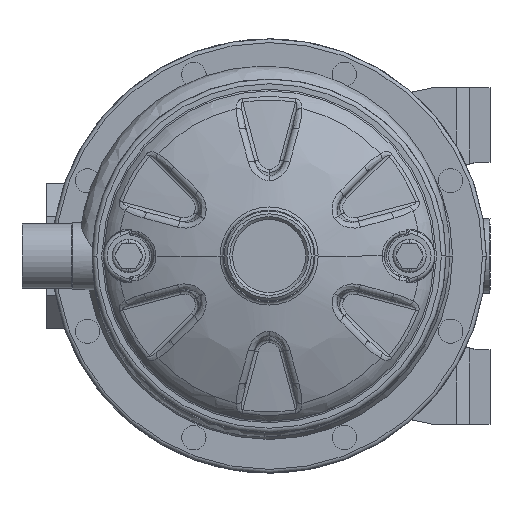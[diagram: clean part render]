
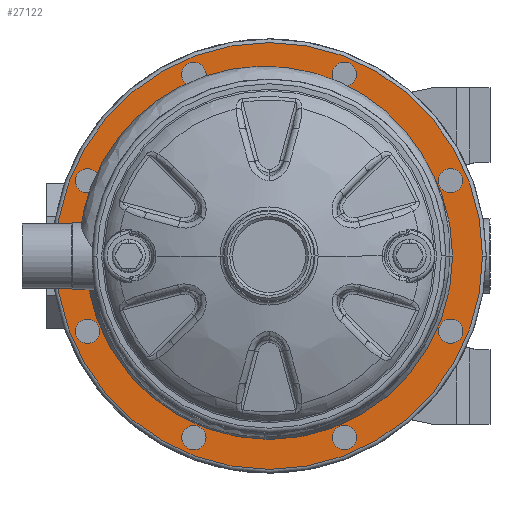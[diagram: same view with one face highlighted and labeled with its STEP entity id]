
A CAD part, left-side view. The second image highlights one B-rep face of the part: STEP entity #27122.
In plain terms, the highlighted planar face has unit normal (-1, 0, 0).
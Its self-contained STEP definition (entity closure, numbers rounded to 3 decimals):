
#19614=CARTESIAN_POINT('',(33.,0.,
0.));
#19615=DIRECTION('',(1.,0.,0.));
#19616=DIRECTION('',(0.,-1.,0.));
#19617=AXIS2_PLACEMENT_3D('',#19614,#19615,#19616);
#19622=CARTESIAN_POINT('',(33.,0.,
0.));
#19623=DIRECTION('',(1.,0.,0.));
#19624=DIRECTION('',(0.,1.,0.));
#19625=AXIS2_PLACEMENT_3D('',#19622,#19623,#19624);
#19630=CARTESIAN_POINT('',(33.,0.,0.));
#19631=DIRECTION('',(-1.,0.,0.));
#19632=DIRECTION('',(0.,1.,0.));
#19633=AXIS2_PLACEMENT_3D('',#19630,#19631,#19632);
#19638=CARTESIAN_POINT('',(33.,0.,0.));
#19639=DIRECTION('',(-1.,0.,0.));
#19640=DIRECTION('',(0.,-1.,0.));
#19641=AXIS2_PLACEMENT_3D('',#19638,#19639,#19640);
#19646=CARTESIAN_POINT('',(33.,97.007,40.182));
#19647=DIRECTION('',(-1.,0.,0.));
#19648=DIRECTION('',(0.,0.,1.));
#19649=AXIS2_PLACEMENT_3D('',#19646,#19647,#19648);
#19654=CARTESIAN_POINT('',(33.,97.007,40.182));
#19655=DIRECTION('',(-1.,0.,0.));
#19656=DIRECTION('',(0.,0.,-1.));
#19657=AXIS2_PLACEMENT_3D('',#19654,#19655,#19656);
#19662=CARTESIAN_POINT('',(33.,40.182,97.007));
#19663=DIRECTION('',(-1.,0.,0.));
#19664=DIRECTION('',(0.,-0.707,0.707));
#19665=AXIS2_PLACEMENT_3D('',#19662,#19663,#19664);
#19670=CARTESIAN_POINT('',(33.,40.182,97.007));
#19671=DIRECTION('',(-1.,0.,0.));
#19672=DIRECTION('',(0.,0.707,-0.707));
#19673=AXIS2_PLACEMENT_3D('',#19670,#19671,#19672);
#19678=CARTESIAN_POINT('',(33.,-40.182,97.007));
#19679=DIRECTION('',(-1.,0.,0.));
#19680=DIRECTION('',(0.,-1.,0.));
#19681=AXIS2_PLACEMENT_3D('',#19678,#19679,#19680);
#19686=CARTESIAN_POINT('',(33.,-40.182,97.007));
#19687=DIRECTION('',(-1.,0.,0.));
#19688=DIRECTION('',(0.,1.,0.));
#19689=AXIS2_PLACEMENT_3D('',#19686,#19687,#19688);
#19694=CARTESIAN_POINT('',(33.,-97.007,40.182));
#19695=DIRECTION('',(-1.,0.,0.));
#19696=DIRECTION('',(0.,-0.707,-0.707));
#19697=AXIS2_PLACEMENT_3D('',#19694,#19695,#19696);
#19702=CARTESIAN_POINT('',(33.,-97.007,40.182));
#19703=DIRECTION('',(-1.,0.,0.));
#19704=DIRECTION('',(0.,0.707,0.707));
#19705=AXIS2_PLACEMENT_3D('',#19702,#19703,#19704);
#19710=CARTESIAN_POINT('',(33.,-97.007,-40.182));
#19711=DIRECTION('',(-1.,0.,0.));
#19712=DIRECTION('',(0.,0.,-1.));
#19713=AXIS2_PLACEMENT_3D('',#19710,#19711,#19712);
#19718=CARTESIAN_POINT('',(33.,-97.007,-40.182));
#19719=DIRECTION('',(-1.,0.,0.));
#19720=DIRECTION('',(0.,0.,1.));
#19721=AXIS2_PLACEMENT_3D('',#19718,#19719,#19720);
#19726=CARTESIAN_POINT('',(33.,-40.182,-97.007));
#19727=DIRECTION('',(-1.,0.,0.));
#19728=DIRECTION('',(0.,0.707,-0.707));
#19729=AXIS2_PLACEMENT_3D('',#19726,#19727,#19728);
#19734=CARTESIAN_POINT('',(33.,-40.182,-97.007));
#19735=DIRECTION('',(-1.,0.,0.));
#19736=DIRECTION('',(0.,-0.707,0.707));
#19737=AXIS2_PLACEMENT_3D('',#19734,#19735,#19736);
#19742=CARTESIAN_POINT('',(33.,40.182,-97.007));
#19743=DIRECTION('',(-1.,0.,0.));
#19744=DIRECTION('',(0.,1.,0.));
#19745=AXIS2_PLACEMENT_3D('',#19742,#19743,#19744);
#19750=CARTESIAN_POINT('',(33.,40.182,-97.007));
#19751=DIRECTION('',(-1.,0.,0.));
#19752=DIRECTION('',(0.,-1.,0.));
#19753=AXIS2_PLACEMENT_3D('',#19750,#19751,#19752);
#19758=CARTESIAN_POINT('',(33.,97.007,-40.182));
#19759=DIRECTION('',(-1.,0.,0.));
#19760=DIRECTION('',(0.,0.707,0.707));
#19761=AXIS2_PLACEMENT_3D('',#19758,#19759,#19760);
#19766=CARTESIAN_POINT('',(33.,97.007,-40.182));
#19767=DIRECTION('',(-1.,0.,0.));
#19768=DIRECTION('',(0.,-0.707,-0.707));
#19769=AXIS2_PLACEMENT_3D('',#19766,#19767,#19768);
#26437=CARTESIAN_POINT('',(33.,-98.,
0.));
#26438=CARTESIAN_POINT('',(33.,98.,
0.));
#26439=VERTEX_POINT('',#26437);
#26440=VERTEX_POINT('',#26438);
#26441=CARTESIAN_POINT('',(33.,114.,0.));
#26442=CARTESIAN_POINT('',(33.,-114.,0.));
#26443=VERTEX_POINT('',#26441);
#26444=VERTEX_POINT('',#26442);
#26461=CARTESIAN_POINT('',(33.,97.007,46.682));
#26462=CARTESIAN_POINT('',(33.,97.007,33.682));
#26463=VERTEX_POINT('',#26461);
#26464=VERTEX_POINT('',#26462);
#26493=CARTESIAN_POINT('',(33.,35.586,101.604));
#26494=VERTEX_POINT('',#26493);
#26495=CARTESIAN_POINT('',(33.,44.778,92.411));
#26496=VERTEX_POINT('',#26495);
#26509=CARTESIAN_POINT('',(33.,-46.682,97.007));
#26510=VERTEX_POINT('',#26509);
#26511=CARTESIAN_POINT('',(33.,-33.682,97.007));
#26512=VERTEX_POINT('',#26511);
#26525=CARTESIAN_POINT('',(33.,-101.604,35.586));
#26526=VERTEX_POINT('',#26525);
#26527=CARTESIAN_POINT('',(33.,-92.411,44.778));
#26528=VERTEX_POINT('',#26527);
#26541=CARTESIAN_POINT('',(33.,-97.007,-46.682));
#26542=VERTEX_POINT('',#26541);
#26543=CARTESIAN_POINT('',(33.,-97.007,-33.682));
#26544=VERTEX_POINT('',#26543);
#26557=CARTESIAN_POINT('',(33.,-35.586,-101.604));
#26558=VERTEX_POINT('',#26557);
#26559=CARTESIAN_POINT('',(33.,-44.778,-92.411));
#26560=VERTEX_POINT('',#26559);
#26573=CARTESIAN_POINT('',(33.,46.682,-97.007));
#26574=VERTEX_POINT('',#26573);
#26575=CARTESIAN_POINT('',(33.,33.682,-97.007));
#26576=VERTEX_POINT('',#26575);
#26589=CARTESIAN_POINT('',(33.,101.604,-35.586));
#26590=VERTEX_POINT('',#26589);
#26591=CARTESIAN_POINT('',(33.,92.411,-44.778));
#26592=VERTEX_POINT('',#26591);
#27058=CARTESIAN_POINT('',(33.,0.,0.));
#27059=DIRECTION('',(1.,0.,0.));
#27060=DIRECTION('',(0.,-1.,0.));
#27061=AXIS2_PLACEMENT_3D('',#27058,#27059,#27060);
#27062=PLANE('',#27061);
#27064=ORIENTED_EDGE('',*,*,#27063,.F.);
#27065=ORIENTED_EDGE('',*,*,#27048,.F.);
#27066=EDGE_LOOP('',(#27064,#27065));
#27067=FACE_OUTER_BOUND('',#27066,.F.);
#27069=ORIENTED_EDGE('',*,*,#27068,.F.);
#27071=ORIENTED_EDGE('',*,*,#27070,.F.);
#27072=EDGE_LOOP('',(#27069,#27071));
#27073=FACE_BOUND('',#27072,.F.);
#27075=ORIENTED_EDGE('',*,*,#27074,.T.);
#27077=ORIENTED_EDGE('',*,*,#27076,.T.);
#27078=EDGE_LOOP('',(#27075,#27077));
#27079=FACE_BOUND('',#27078,.F.);
#27081=ORIENTED_EDGE('',*,*,#27080,.T.);
#27083=ORIENTED_EDGE('',*,*,#27082,.T.);
#27084=EDGE_LOOP('',(#27081,#27083));
#27085=FACE_BOUND('',#27084,.F.);
#27087=ORIENTED_EDGE('',*,*,#27086,.T.);
#27089=ORIENTED_EDGE('',*,*,#27088,.T.);
#27090=EDGE_LOOP('',(#27087,#27089));
#27091=FACE_BOUND('',#27090,.F.);
#27093=ORIENTED_EDGE('',*,*,#27092,.T.);
#27095=ORIENTED_EDGE('',*,*,#27094,.T.);
#27096=EDGE_LOOP('',(#27093,#27095));
#27097=FACE_BOUND('',#27096,.F.);
#27099=ORIENTED_EDGE('',*,*,#27098,.T.);
#27101=ORIENTED_EDGE('',*,*,#27100,.T.);
#27102=EDGE_LOOP('',(#27099,#27101));
#27103=FACE_BOUND('',#27102,.F.);
#27105=ORIENTED_EDGE('',*,*,#27104,.T.);
#27107=ORIENTED_EDGE('',*,*,#27106,.T.);
#27108=EDGE_LOOP('',(#27105,#27107));
#27109=FACE_BOUND('',#27108,.F.);
#27111=ORIENTED_EDGE('',*,*,#27110,.T.);
#27113=ORIENTED_EDGE('',*,*,#27112,.T.);
#27114=EDGE_LOOP('',(#27111,#27113));
#27115=FACE_BOUND('',#27114,.F.);
#27117=ORIENTED_EDGE('',*,*,#27116,.T.);
#27119=ORIENTED_EDGE('',*,*,#27118,.T.);
#27120=EDGE_LOOP('',(#27117,#27119));
#27121=FACE_BOUND('',#27120,.F.);
#19618=CIRCLE('',#19617,98.);
#19626=CIRCLE('',#19625,98.);
#19634=CIRCLE('',#19633,114.);
#19642=CIRCLE('',#19641,114.);
#19650=CIRCLE('',#19649,6.5);
#19658=CIRCLE('',#19657,6.5);
#19666=CIRCLE('',#19665,6.5);
#19674=CIRCLE('',#19673,6.5);
#19682=CIRCLE('',#19681,6.5);
#19690=CIRCLE('',#19689,6.5);
#19698=CIRCLE('',#19697,6.5);
#19706=CIRCLE('',#19705,6.5);
#19714=CIRCLE('',#19713,6.5);
#19722=CIRCLE('',#19721,6.5);
#19730=CIRCLE('',#19729,6.5);
#19738=CIRCLE('',#19737,6.5);
#19746=CIRCLE('',#19745,6.5);
#19754=CIRCLE('',#19753,6.5);
#19762=CIRCLE('',#19761,6.5);
#19770=CIRCLE('',#19769,6.5);
#27048=EDGE_CURVE('',#26444,#26443,#19642,.T.);
#27063=EDGE_CURVE('',#26443,#26444,#19634,.T.);
#27068=EDGE_CURVE('',#26439,#26440,#19618,.T.);
#27070=EDGE_CURVE('',#26440,#26439,#19626,.T.);
#27074=EDGE_CURVE('',#26463,#26464,#19650,.T.);
#27076=EDGE_CURVE('',#26464,#26463,#19658,.T.);
#27080=EDGE_CURVE('',#26494,#26496,#19666,.T.);
#27082=EDGE_CURVE('',#26496,#26494,#19674,.T.);
#27086=EDGE_CURVE('',#26510,#26512,#19682,.T.);
#27088=EDGE_CURVE('',#26512,#26510,#19690,.T.);
#27092=EDGE_CURVE('',#26526,#26528,#19698,.T.);
#27094=EDGE_CURVE('',#26528,#26526,#19706,.T.);
#27098=EDGE_CURVE('',#26542,#26544,#19714,.T.);
#27100=EDGE_CURVE('',#26544,#26542,#19722,.T.);
#27104=EDGE_CURVE('',#26558,#26560,#19730,.T.);
#27106=EDGE_CURVE('',#26560,#26558,#19738,.T.);
#27110=EDGE_CURVE('',#26574,#26576,#19746,.T.);
#27112=EDGE_CURVE('',#26576,#26574,#19754,.T.);
#27116=EDGE_CURVE('',#26590,#26592,#19762,.T.);
#27118=EDGE_CURVE('',#26592,#26590,#19770,.T.);
#27122=ADVANCED_FACE('',(#27067,#27073,#27079,#27085,#27091,#27097,#27103,
#27109,#27115,#27121),#27062,.F.);
